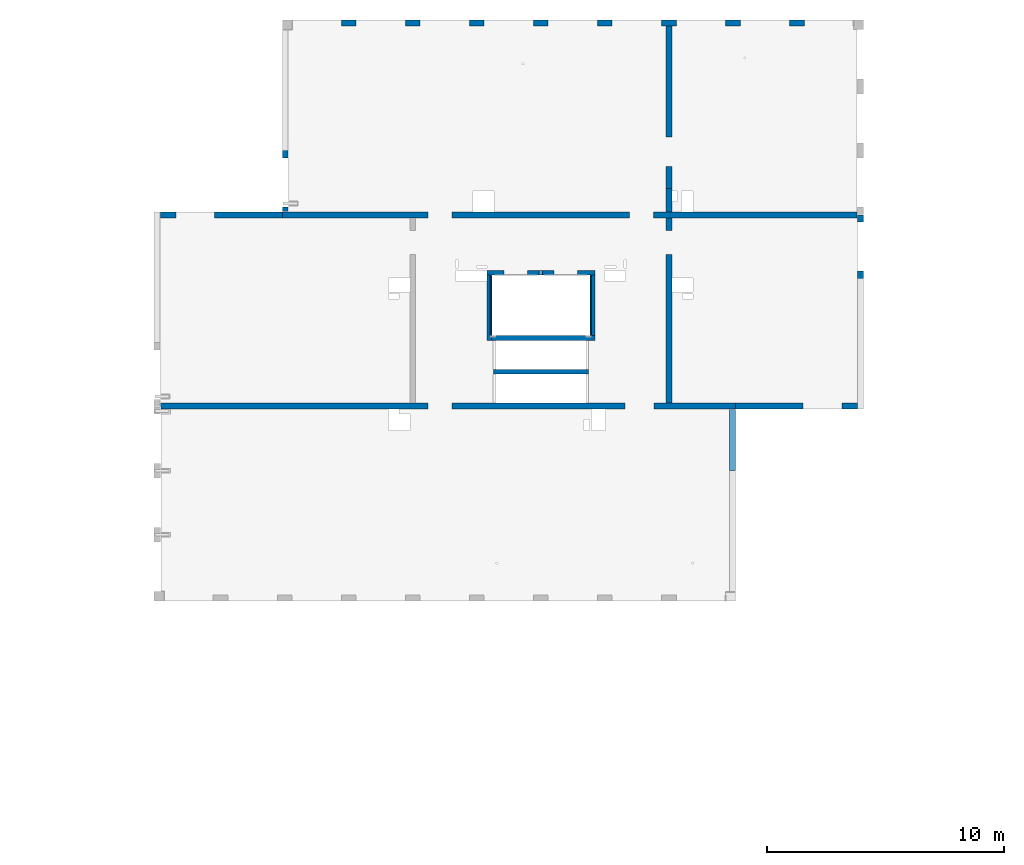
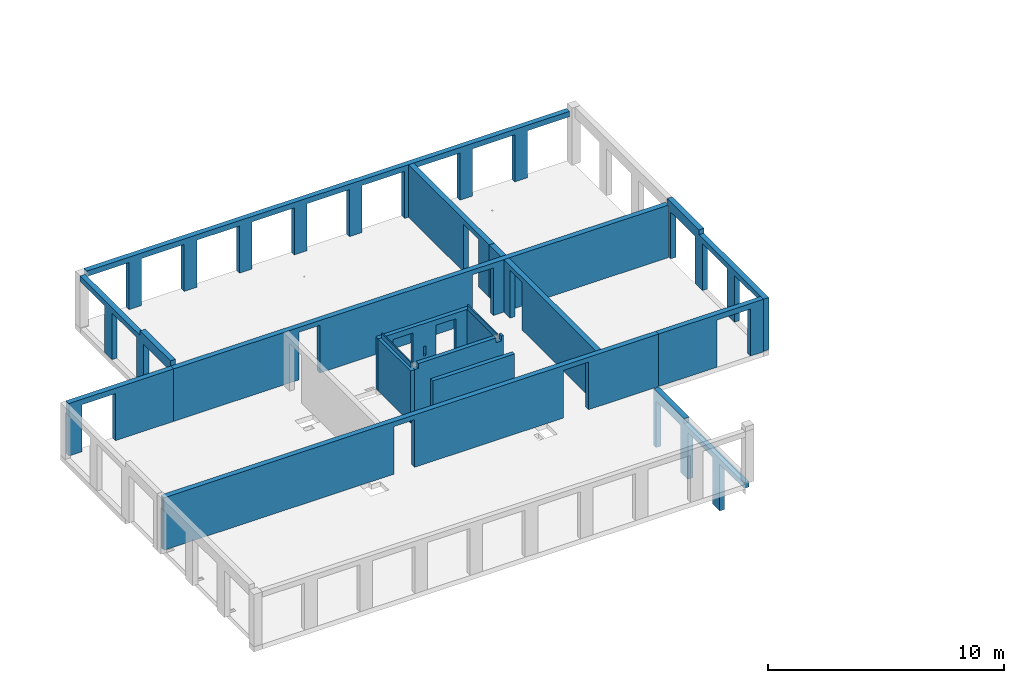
# One storey, part 4 of 12: 18 walls, 35 openings.
"""IFC2X3 building model written with IfcOpenShell, lengths in millimetres."""

from ifc_helpers import new_model, entity, si_unit, converted_unit, derived_unit, direction, frame, frame_2d, origin, origin_2d_with_axis, place, context, subcontext, project, spatial, rectangle, extrude, material, layer, layer_set, layer_usage, type_object, element, save


model = new_model("IFC2X3")

# Units and contexts
model_context = context("Model", 3, precision=0.01, world=origin(), true_north=direction((6.12303176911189e-17, 1.0)))
body_context = subcontext(model_context, "Body", "Model", "MODEL_VIEW")
ifc_project = project(units=[si_unit("LENGTHUNIT", "METRE", prefix="MILLI"), si_unit("AREAUNIT", "SQUARE_METRE"), si_unit("VOLUMEUNIT", "CUBIC_METRE"), converted_unit("PLANEANGLEUNIT", "DEGREE", entity("IfcRatioMeasure", 0.0174532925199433), si_unit("PLANEANGLEUNIT", "RADIAN"), dimensions=[0, 0, 0, 0, 0, 0, 0]), si_unit("MASSUNIT", "GRAM", prefix="KILO"), derived_unit("MASSDENSITYUNIT", [(si_unit("MASSUNIT", "GRAM", prefix="KILO"), 1), (si_unit("LENGTHUNIT", "METRE"), -3)]), si_unit("TIMEUNIT", "SECOND"), si_unit("FREQUENCYUNIT", "HERTZ"), si_unit("THERMODYNAMICTEMPERATUREUNIT", "DEGREE_CELSIUS"), derived_unit("THERMALTRANSMITTANCEUNIT", [(si_unit("MASSUNIT", "GRAM", prefix="KILO"), 1), (si_unit("THERMODYNAMICTEMPERATUREUNIT", "KELVIN"), -1), (si_unit("TIMEUNIT", "SECOND"), -3)]), derived_unit("VOLUMETRICFLOWRATEUNIT", [(si_unit("LENGTHUNIT", "METRE"), 3), (si_unit("TIMEUNIT", "SECOND"), -1)]), si_unit("ELECTRICCURRENTUNIT", "AMPERE"), si_unit("ELECTRICVOLTAGEUNIT", "VOLT"), si_unit("POWERUNIT", "WATT"), si_unit("FORCEUNIT", "NEWTON", prefix="KILO"), si_unit("ILLUMINANCEUNIT", "LUX"), si_unit("LUMINOUSFLUXUNIT", "LUMEN"), si_unit("LUMINOUSINTENSITYUNIT", "CANDELA"), derived_unit("USERDEFINED", [(si_unit("MASSUNIT", "GRAM", prefix="KILO"), -1), (si_unit("LENGTHUNIT", "METRE"), -2), (si_unit("TIMEUNIT", "SECOND"), 3), (si_unit("LUMINOUSFLUXUNIT", "LUMEN"), 1)]), derived_unit("LINEARVELOCITYUNIT", [(si_unit("LENGTHUNIT", "METRE"), 1), (si_unit("TIMEUNIT", "SECOND"), -1)]), si_unit("PRESSUREUNIT", "PASCAL"), derived_unit("USERDEFINED", [(si_unit("LENGTHUNIT", "METRE"), -2), (si_unit("MASSUNIT", "GRAM", prefix="KILO"), 1), (si_unit("TIMEUNIT", "SECOND"), -2)])], contexts=[model_context])

# Site, building, storey
site_placement = place(None, origin())
site = spatial("IfcSite", under=ifc_project, at=site_placement, Name="Default", CompositionType="ELEMENT")
building_placement = place(site_placement, origin())
building = spatial("IfcBuilding", under=site, at=building_placement, Name="niet gebruiken", CompositionType="ELEMENT")
storey_placement = place(building_placement, frame((0.0, 0.0, 21510.0)))
storey = spatial("IfcBuildingStorey", under=building, at=storey_placement, Name="07 zevende verdieping", CompositionType="ELEMENT", Elevation=21510.0)

# Wall, openings
ifc_material_1 = material(Name="NLRS_f2_beton ihwg")
ifc_layer_1 = layer(ifc_material_1, 250.0)
ifc_layer_set_1 = layer_set([ifc_layer_1], Name="Basic Wall:NLRS_22.21_WA_beton ihwg d=250_gen")
ifc_layer_usage_1 = layer_usage(ifc_layer_set_1, "AXIS2", "NEGATIVE", 125.0)
wall_type_1 = type_object("IfcWallType", Name="Basic Wall:NLRS_22.21_WA_beton ihwg d=250_gen", PredefinedType="STANDARD", material=ifc_layer_set_1)
wall_1_placement = place(storey_placement, frame((27170.0, 36981.0, -90.0)))
wall_1 = element("IfcWallStandardCase", 1, at=wall_1_placement, inside=storey, type_object=wall_type_1, material=ifc_layer_usage_1, Name="Basic Wall:NLRS_22.21_WA_beton ihwg d=250_gen", ObjectType="Basic Wall:NLRS_22.21_WA_beton ihwg d=250_gen", context=body_context, shape_type="SweptSolid", body=[
    extrude(rectangle(XDim=24230.0, YDim=250.000000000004, at=frame_2d((12115.0, 0.0), x_axis=(-1.0, 0.0))), origin(), (0.0, 0.0, 1.0), 2719.99999999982),
])
opening_1_placement = place(wall_1_placement, origin())
element("IfcOpeningElement", 2, at=opening_1_placement, cuts=wall_1, Name="Basic Wall:NLRS_22.21_WA_beton ihwg d=250_gen", ObjectType="Opening", context=body_context, shape_type="SweptSolid", body=[
    extrude(rectangle(XDim=2470.0, YDim=1225.0, at=frame_2d((0.0, 0.0), x_axis=(0.0, 1.0))), frame((20192.5000000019, -1399.0, 1235.0), z_axis=(0.0, 1.0, 0.0), x_axis=(-1.0, 0.0, 0.0)), (0.0, 0.0, 1.0), 3048.0),
])
opening_2_placement = place(wall_1_placement, origin())
element("IfcOpeningElement", 3, at=opening_2_placement, cuts=wall_1, Name="Basic Wall:NLRS_22.21_WA_beton ihwg d=250_gen", ObjectType="Opening", context=body_context, shape_type="SweptSolid", body=[
    extrude(rectangle(XDim=2470.0, YDim=1006.0, at=frame_2d((2.1600499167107e-12, 0.0), x_axis=(0.0, 1.0))), frame((11782.0, -1399.0, 1235.0), z_axis=(0.0, 1.0, 0.0), x_axis=(-1.0, 0.0, 0.0)), (0.0, 0.0, 1.0), 3048.0),
])
opening_3_placement = place(wall_1_placement, origin())
element("IfcOpeningElement", 4, at=opening_3_placement, cuts=wall_1, Name="Basic Wall:NLRS_22.21_WA_beton ihwg d=250_gen", ObjectType="Recess", context=body_context, shape_type="SweptSolid", body=[
    extrude(rectangle(XDim=55000.0, YDim=20.0000000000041, at=frame_2d((0.0, -2.16626716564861e-12), x_axis=(1.0, 0.0))), frame((10.0, -140.0, 18590.0), z_axis=(0.0, 1.0, 0.0), x_axis=(0.0, 0.0, -1.0)), (0.0, 0.0, 1.0), 124.999999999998),
])

# Wall, opening
ifc_layer_usage_2 = layer_usage(ifc_layer_set_1, "AXIS2", "NEGATIVE", 125.0)
wall_2_placement = place(storey_placement, frame((27170.0, 45031.0, -90.0)))
wall_2 = element("IfcWallStandardCase", 5, at=wall_2_placement, inside=storey, type_object=wall_type_1, material=ifc_layer_usage_2, Name="Basic Wall:NLRS_22.21_WA_beton ihwg d=250_gen", ObjectType="Basic Wall:NLRS_22.21_WA_beton ihwg d=250_gen", context=body_context, shape_type="SweptSolid", body=[
    extrude(rectangle(XDim=5130.0, YDim=249.999999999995, at=frame_2d((2565.0, 0.0), x_axis=(-1.0, 0.0))), origin(), (0.0, 0.0, 1.0), 2719.99999999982),
])
opening_4_placement = place(wall_2_placement, origin())
element("IfcOpeningElement", 6, at=opening_4_placement, cuts=wall_2, Name="Basic Wall:NLRS_22.21_WA_beton ihwg d=250_gen", ObjectType="Opening", context=body_context, shape_type="SweptSolid", body=[
    extrude(rectangle(XDim=2440.0, YDim=1640.0, at=origin_2d_with_axis()), frame((1460.0, -1649.0, 1220.0), z_axis=(0.0, 1.0, 0.0), x_axis=(0.0, 0.0, 1.0)), (0.0, 0.0, 1.0), 3048.0),
])

ifc_layer_usage_3 = layer_usage(ifc_layer_set_1, "AXIS2", "NEGATIVE", 125.0)
wall_3_placement = place(storey_placement, frame((48600.0, 53006.0, -90.0), z_axis=(0.0, 0.0, 1.0), x_axis=(0.0, -1.0, 0.0)))
wall_3 = element("IfcWallStandardCase", 7, at=wall_3_placement, inside=storey, type_object=wall_type_1, material=ifc_layer_usage_3, Name="Basic Wall:NLRS_22.21_WA_beton ihwg d=250_gen", ObjectType="Basic Wall:NLRS_22.21_WA_beton ihwg d=250_gen", context=body_context, shape_type="SweptSolid", body=[
    extrude(rectangle(XDim=6850.00000000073, YDim=249.999999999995, at=frame_2d((3425.00000000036, -1.10134124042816e-12), x_axis=(-1.0, 0.0))), origin(), (0.0, 0.0, 1.0), 2719.99999999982),
])
opening_5_placement = place(wall_3_placement, origin())
element("IfcOpeningElement", 8, at=opening_5_placement, cuts=wall_3, Name="Basic Wall:NLRS_22.21_WA_beton ihwg d=250_gen", ObjectType="Opening", context=body_context, shape_type="SweptSolid", body=[
    extrude(rectangle(XDim=2470.0, YDim=1240.0, at=frame_2d((0.0, 4.37694325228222e-12), x_axis=(1.0, 0.0))), frame((5300.0, -1649.0, 1235.0), z_axis=(0.0, 1.0, 0.0), x_axis=(0.0, 0.0, 1.0)), (0.0, 0.0, 1.0), 3048.0),
])

ifc_layer_usage_4 = layer_usage(ifc_layer_set_1, "AXIS2", "NEGATIVE", 125.0)
wall_4_placement = place(storey_placement, frame((48600.0, 44906.0, -90.0), z_axis=(0.0, 0.0, 1.0), x_axis=(0.0, -1.0, 0.0)))
wall_4 = element("IfcWallStandardCase", 9, at=wall_4_placement, inside=storey, type_object=wall_type_1, material=ifc_layer_usage_4, Name="Basic Wall:NLRS_22.21_WA_beton ihwg d=250_gen", ObjectType="Basic Wall:NLRS_22.21_WA_beton ihwg d=250_gen", context=body_context, shape_type="SweptSolid", body=[
    extrude(rectangle(XDim=7799.99999999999, YDim=249.999999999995, at=frame_2d((3900.0, 0.0), x_axis=(-1.0, 0.0))), origin(), (0.0, 0.0, 1.0), 2719.99999999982),
])
opening_6_placement = place(wall_4_placement, origin())
element("IfcOpeningElement", 10, at=opening_6_placement, cuts=wall_4, Name="Basic Wall:NLRS_22.21_WA_beton ihwg d=250_gen", ObjectType="Opening", context=body_context, shape_type="SweptSolid", body=[
    extrude(rectangle(XDim=2470.0, YDim=1006.0, at=origin_2d_with_axis()), frame((1027.0, -1649.0, 1235.0), z_axis=(0.0, 1.0, 0.0), x_axis=(0.0, 0.0, 1.0)), (0.0, 0.0, 1.0), 3048.0),
])

# Wall, openings
ifc_layer_usage_5 = layer_usage(ifc_layer_set_1, "AXIS2", "NEGATIVE", 125.0)
wall_5_placement = place(storey_placement, frame((32300.0, 45031.0, -90.0)))
wall_5 = element("IfcWallStandardCase", 11, at=wall_5_placement, inside=storey, type_object=wall_type_1, material=ifc_layer_usage_5, Name="Basic Wall:NLRS_22.21_WA_beton ihwg d=250_gen", ObjectType="Basic Wall:NLRS_22.21_WA_beton ihwg d=250_gen", context=body_context, shape_type="SweptSolid", body=[
    extrude(rectangle(XDim=24230.0000000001, YDim=249.999999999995, at=frame_2d((12115.0000000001, 0.0), x_axis=(-1.0, 0.0))), origin(), (0.0, 0.0, 1.0), 2719.99999999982),
])
opening_7_placement = place(wall_5_placement, origin())
element("IfcOpeningElement", 12, at=opening_7_placement, cuts=wall_5, Name="Basic Wall:NLRS_22.21_WA_beton ihwg d=250_gen", ObjectType="Opening", context=body_context, shape_type="SweptSolid", body=[
    extrude(rectangle(XDim=2470.0, YDim=1006.0, at=origin_2d_with_axis()), frame((15148.0, -1649.0, 1235.0), z_axis=(0.0, 1.0, 0.0), x_axis=(0.0, 0.0, 1.0)), (0.0, 0.0, 1.0), 3048.0),
])
opening_8_placement = place(wall_5_placement, origin())
element("IfcOpeningElement", 13, at=opening_8_placement, cuts=wall_5, Name="Basic Wall:NLRS_22.21_WA_beton ihwg d=250_gen", ObjectType="Opening", context=body_context, shape_type="SweptSolid", body=[
    extrude(rectangle(XDim=2470.0, YDim=1006.0, at=frame_2d((0.0, -2.1600499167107e-12), x_axis=(1.0, 0.0))), frame((6652.0, -1649.0, 1235.0), z_axis=(0.0, 1.0, 0.0), x_axis=(0.0, 0.0, 1.0)), (0.0, 0.0, 1.0), 3048.0),
])

# Wall, opening
ifc_layer_usage_6 = layer_usage(ifc_layer_set_1, "AXIS2", "NEGATIVE", 125.0)
wall_6_placement = place(storey_placement, frame((51400.0, 36981.0, -90.0)))
wall_6 = element("IfcWallStandardCase", 14, at=wall_6_placement, inside=storey, type_object=wall_type_1, material=ifc_layer_usage_6, Name="Basic Wall:NLRS_22.21_WA_beton ihwg d=250_gen", ObjectType="Basic Wall:NLRS_22.21_WA_beton ihwg d=250_gen", context=body_context, shape_type="SweptSolid", body=[
    extrude(rectangle(XDim=5150.0, YDim=250.000000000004, at=frame_2d((2575.0, 0.0), x_axis=(-1.0, 0.0))), origin(), (0.0, 0.0, 1.0), 2719.99999999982),
])
opening_9_placement = place(wall_6_placement, origin())
element("IfcOpeningElement", 15, at=opening_9_placement, cuts=wall_6, Name="Basic Wall:NLRS_22.21_WA_beton ihwg d=250_gen", ObjectType="Opening", context=body_context, shape_type="SweptSolid", body=[
    extrude(rectangle(XDim=2440.0, YDim=1640.0, at=frame_2d((4.37694325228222e-12, 0.0), x_axis=(0.0, 1.0))), frame((3670.0, -1399.0, 1220.0), z_axis=(0.0, 1.0, 0.0), x_axis=(-1.0, 0.0, 0.0)), (0.0, 0.0, 1.0), 3048.0),
])

# Wall
ifc_layer_usage_7 = layer_usage(ifc_layer_set_1, "AXIS2", "NEGATIVE", 125.0)
wall_7_placement = place(storey_placement, frame((48600.0, 46156.0, -90.0), z_axis=(0.0, 0.0, 1.0), x_axis=(0.0, -1.0, 0.0)))
element("IfcWallStandardCase", 16, at=wall_7_placement, inside=storey, type_object=wall_type_1, material=ifc_layer_usage_7, Name="Basic Wall:NLRS_22.21_WA_beton ihwg d=250_gen", ObjectType="Basic Wall:NLRS_22.21_WA_beton ihwg d=250_gen", context=body_context, shape_type="SweptSolid", body=[
    extrude(rectangle(XDim=999.999999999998, YDim=249.999999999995, at=frame_2d((499.999999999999, 1.10134124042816e-12), x_axis=(-1.0, 0.0))), origin(), (0.0, 0.0, 1.0), 2719.99999999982),
])

# Wall, openings
ifc_material_2 = material(Name="NLRS_f2_beton prefab")
ifc_layer_2 = layer(ifc_material_2, 250.0)
ifc_layer_set_2 = layer_set([ifc_layer_2], Name="Basic Wall:NLRS_21.21_WA_beton prefab d=250_gen")
ifc_layer_usage_8 = layer_usage(ifc_layer_set_2, "AXIS2", "NEGATIVE", 125.0)
wall_type_2 = type_object("IfcWallType", Name="Basic Wall:NLRS_21.21_WA_beton prefab d=250_gen", PredefinedType="STANDARD", material=ifc_layer_set_2)
wall_8_placement = place(storey_placement, frame((51275.0, 29166.0, -3040.0), z_axis=(0.0, 0.0, 1.0), x_axis=(0.0, 1.0, 0.0)))
wall_8 = element("IfcWallStandardCase", 17, at=wall_8_placement, inside=storey, type_object=wall_type_2, material=ifc_layer_usage_8, Name="Basic Wall:NLRS_21.21_WA_beton prefab d=250_gen", ObjectType="Basic Wall:NLRS_21.21_WA_beton prefab d=250_gen", context=body_context, shape_type="SweptSolid", body=[
    extrude(rectangle(XDim=7669.99999999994, YDim=249.999999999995, at=frame_2d((3834.99999999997, 0.0), x_axis=(-1.0, 0.0))), origin(), (0.0, 0.0, 1.0), 2949.99999999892),
])
opening_10_placement = place(wall_8_placement, origin())
element("IfcOpeningElement", 18, at=opening_10_placement, cuts=wall_8, Name="Basic Wall:NLRS_21.21_WA_beton prefab d=250_gen", ObjectType="Opening", context=body_context, shape_type="SweptSolid", body=[
    extrude(rectangle(XDim=2420.0, YDim=2080.0, at=frame_2d((-2.1600499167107e-12, 2.1600499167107e-12), x_axis=(0.0, 1.0))), frame((1040.0, -1399.0, 1210.0), z_axis=(0.0, 1.0, 0.0), x_axis=(-1.0, 0.0, 0.0)), (0.0, 0.0, 1.0), 3048.0),
])
opening_11_placement = place(wall_8_placement, origin())
element("IfcOpeningElement", 19, at=opening_11_placement, cuts=wall_8, Name="Basic Wall:NLRS_21.21_WA_beton prefab d=250_gen", ObjectType="Opening", context=body_context, shape_type="SweptSolid", body=[
    extrude(rectangle(XDim=2420.0, YDim=2080.0, at=frame_2d((2.1600499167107e-12, 2.1600499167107e-12), x_axis=(0.0, 1.0))), frame((3740.0, -1399.0, 1210.0), z_axis=(0.0, 1.0, 0.0), x_axis=(-1.0, 0.0, 0.0)), (0.0, 0.0, 1.0), 3048.0),
])
opening_12_placement = place(wall_8_placement, origin())
element("IfcOpeningElement", 20, at=opening_12_placement, cuts=wall_8, Name="Basic Wall:NLRS_21.21_WA_beton prefab d=250_gen", ObjectType="Opening", context=body_context, shape_type="SweptSolid", body=[
    extrude(rectangle(XDim=2420.0, YDim=2080.0, at=frame_2d((2.1600499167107e-12, 2.1600499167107e-12), x_axis=(0.0, 1.0))), frame((6440.0, -1399.0, 1210.0), z_axis=(0.0, 1.0, 0.0), x_axis=(-1.0, 0.0, 0.0)), (0.0, 0.0, 1.0), 3048.0),
])
opening_13_placement = place(wall_8_placement, origin())
element("IfcOpeningElement", 21, at=opening_13_placement, cuts=wall_8, Name="Basic Wall:NLRS_21.21_WA_beton prefab d=250_gen", ObjectType="Opening", context=body_context, shape_type="SweptSolid", body=[
    extrude(rectangle(XDim=249.999999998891, YDim=5090.00000000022, at=frame_2d((0.0, 2.16715534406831e-12), x_axis=(0.0, 1.0))), frame((2545.0, 125.0, 2825.0), z_axis=(0.0, -1.0, 0.0), x_axis=(-1.0, 0.0, 0.0)), (0.0, 0.0, 1.0), 250.0),
])

ifc_layer_usage_9 = layer_usage(ifc_layer_set_2, "AXIS2", "NEGATIVE", 125.0)
wall_9_placement = place(storey_placement, frame((32425.0, 52846.0, -70.0), z_axis=(0.0, 0.0, 1.0), x_axis=(0.0, -1.0, 0.0)))
wall_9 = element("IfcWallStandardCase", 22, at=wall_9_placement, inside=storey, type_object=wall_type_2, material=ifc_layer_usage_9, Name="Basic Wall:NLRS_21.21_WA_beton prefab d=250_gen", ObjectType="Basic Wall:NLRS_21.21_WA_beton prefab d=250_gen", context=body_context, shape_type="SweptSolid", body=[
    extrude(rectangle(XDim=7670.00000000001, YDim=250.000000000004, at=frame_2d((3835.0, 0.0), x_axis=(-1.0, 0.0))), origin(), (0.0, 0.0, 1.0), 2949.99999999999),
])
opening_14_placement = place(wall_9_placement, origin())
element("IfcOpeningElement", 23, at=opening_14_placement, cuts=wall_9, Name="Basic Wall:NLRS_21.21_WA_beton prefab d=250_gen", ObjectType="Opening", context=body_context, shape_type="SweptSolid", body=[
    extrude(rectangle(XDim=2420.0, YDim=2080.0, at=frame_2d((8.64019966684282e-12, -2.1600499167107e-12), x_axis=(0.0, 1.0))), frame((1040.0, -1399.0, 1210.0), z_axis=(0.0, 1.0, 0.0), x_axis=(-1.0, 0.0, 0.0)), (0.0, 0.0, 1.0), 3048.0),
])
opening_15_placement = place(wall_9_placement, origin())
element("IfcOpeningElement", 24, at=opening_15_placement, cuts=wall_9, Name="Basic Wall:NLRS_21.21_WA_beton prefab d=250_gen", ObjectType="Opening", context=body_context, shape_type="SweptSolid", body=[
    extrude(rectangle(XDim=2420.0, YDim=2080.0, at=frame_2d((0.0, 2.1600499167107e-12), x_axis=(0.0, 1.0))), frame((3740.0, -1399.0, 1210.0), z_axis=(0.0, 1.0, 0.0), x_axis=(-1.0, 0.0, 0.0)), (0.0, 0.0, 1.0), 3048.0),
])
opening_16_placement = place(wall_9_placement, origin())
element("IfcOpeningElement", 25, at=opening_16_placement, cuts=wall_9, Name="Basic Wall:NLRS_21.21_WA_beton prefab d=250_gen", ObjectType="Opening", context=body_context, shape_type="SweptSolid", body=[
    extrude(rectangle(XDim=2420.0, YDim=2080.0, at=frame_2d((0.0, 2.1600499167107e-12), x_axis=(0.0, 1.0))), frame((6440.0, -1399.0, 1210.0), z_axis=(0.0, 1.0, 0.0), x_axis=(-1.0, 0.0, 0.0)), (0.0, 0.0, 1.0), 3048.0),
])
opening_17_placement = place(wall_9_placement, origin())
element("IfcOpeningElement", 26, at=opening_17_placement, cuts=wall_9, Name="Basic Wall:NLRS_21.21_WA_beton prefab d=250_gen", ObjectType="Opening", context=body_context, shape_type="SweptSolid", body=[
    extrude(rectangle(XDim=250.000000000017, YDim=5089.99999999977, at=frame_2d((4.32009983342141e-12, -2.16715534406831e-12), x_axis=(0.0, 1.0))), frame((2545.0, 125.0, 2825.0), z_axis=(0.0, -1.0, 0.0), x_axis=(-1.0, 0.0, 0.0)), (0.0, 0.0, 1.0), 250.0),
])

ifc_layer_usage_10 = layer_usage(ifc_layer_set_2, "AXIS2", "NEGATIVE", 125.0)
wall_10_placement = place(storey_placement, frame((56675.0, 45046.0, -70.0), z_axis=(0.0, 0.0, 1.0), x_axis=(0.0, -1.0, 0.0)))
wall_10 = element("IfcWallStandardCase", 27, at=wall_10_placement, inside=storey, type_object=wall_type_2, material=ifc_layer_usage_10, Name="Basic Wall:NLRS_21.21_WA_beton prefab d=250_gen", ObjectType="Basic Wall:NLRS_21.21_WA_beton prefab d=250_gen", context=body_context, shape_type="SweptSolid", body=[
    extrude(rectangle(XDim=8189.99999999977, YDim=249.999999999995, at=frame_2d((4094.99999999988, 0.0), x_axis=(-1.0, 0.0))), origin(), (0.0, 0.0, 1.0), 2949.99999999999),
])
opening_18_placement = place(wall_10_placement, origin())
element("IfcOpeningElement", 28, at=opening_18_placement, cuts=wall_10, Name="Basic Wall:NLRS_21.21_WA_beton prefab d=250_gen", ObjectType="Opening", context=body_context, shape_type="SweptSolid", body=[
    extrude(rectangle(XDim=2420.0, YDim=2080.0, at=frame_2d((0.0, -2.1600499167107e-12), x_axis=(0.0, 1.0))), frame((1340.0, -1399.0, 1210.0), z_axis=(0.0, 1.0, 0.0), x_axis=(-1.0, 0.0, 0.0)), (0.0, 0.0, 1.0), 3048.0),
])
opening_19_placement = place(wall_10_placement, origin())
element("IfcOpeningElement", 29, at=opening_19_placement, cuts=wall_10, Name="Basic Wall:NLRS_21.21_WA_beton prefab d=250_gen", ObjectType="Opening", context=body_context, shape_type="SweptSolid", body=[
    extrude(rectangle(XDim=2420.0, YDim=2080.0, at=frame_2d((0.0, -2.1600499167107e-12), x_axis=(0.0, 1.0))), frame((4040.0, -1399.0, 1210.0), z_axis=(0.0, 1.0, 0.0), x_axis=(-1.0, 0.0, 0.0)), (0.0, 0.0, 1.0), 3048.0),
])
opening_20_placement = place(wall_10_placement, origin())
element("IfcOpeningElement", 30, at=opening_20_placement, cuts=wall_10, Name="Basic Wall:NLRS_21.21_WA_beton prefab d=250_gen", ObjectType="Opening", context=body_context, shape_type="SweptSolid", body=[
    extrude(rectangle(XDim=2420.0, YDim=2080.0, at=frame_2d((0.0, -2.1600499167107e-12), x_axis=(0.0, 1.0))), frame((6740.0, -1399.0, 1210.0), z_axis=(0.0, 1.0, 0.0), x_axis=(-1.0, 0.0, 0.0)), (0.0, 0.0, 1.0), 3048.0),
])
opening_21_placement = place(wall_10_placement, origin())
element("IfcOpeningElement", 31, at=opening_21_placement, cuts=wall_10, Name="Basic Wall:NLRS_21.21_WA_beton prefab d=250_gen", ObjectType="Opening", context=body_context, shape_type="SweptSolid", body=[
    extrude(rectangle(XDim=249.999999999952, YDim=5500.0000000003, at=frame_2d((0.0, -4.32009983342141e-12), x_axis=(1.0, 0.0))), frame((5440.0, 125.0, 2825.0), z_axis=(0.0, -1.0, 0.0), x_axis=(0.0, 0.0, 1.0)), (0.0, 0.0, 1.0), 250.0),
])

# Wall
ifc_layer_3 = layer(ifc_material_2, 200.0)
ifc_layer_set_3 = layer_set([ifc_layer_3], Name="Basic Wall:NLRS_21.21_WA_beton prefab d=200_gen")
ifc_layer_usage_11 = layer_usage(ifc_layer_set_3, "AXIS2", "NEGATIVE", 100.0)
wall_type_3 = type_object("IfcWallType", Name="Basic Wall:NLRS_21.21_WA_beton prefab d=200_gen", PredefinedType="STANDARD", material=ifc_layer_set_3)
wall_11_placement = place(storey_placement, frame((41200.0, 38426.0, -70.0)))
element("IfcWallStandardCase", 32, at=wall_11_placement, inside=storey, type_object=wall_type_3, material=ifc_layer_usage_11, Name="Basic Wall:NLRS_21.21_WA_beton prefab d=200_gen", ObjectType="Basic Wall:NLRS_21.21_WA_beton prefab d=200_gen", context=body_context, shape_type="SweptSolid", body=[
    extrude(rectangle(XDim=3999.99999999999, YDim=199.999999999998, at=frame_2d((2000.0, 0.0), x_axis=(-1.0, 0.0))), origin(), (0.0, 0.0, 1.0), 2950.00000000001),
])

# Wall, openings
ifc_layer_4 = layer(ifc_material_2, 200.0)
ifc_layer_set_4 = layer_set([ifc_layer_4], Name="Basic Wall:NLRS_22.21_WA_beton prefab d=200_gen")
ifc_layer_usage_12 = layer_usage(ifc_layer_set_4, "AXIS2", "NEGATIVE", 100.0)
wall_type_4 = type_object("IfcWallType", Name="Basic Wall:NLRS_22.21_WA_beton prefab d=200_gen", PredefinedType="STANDARD", material=ifc_layer_set_4)
wall_12_placement = place(storey_placement, frame((40925.0, 42596.0, -70.0)))
wall_12 = element("IfcWallStandardCase", 33, at=wall_12_placement, inside=storey, type_object=wall_type_4, material=ifc_layer_usage_12, Name="Basic Wall:NLRS_22.21_WA_beton prefab d=200_gen", ObjectType="Basic Wall:NLRS_22.21_WA_beton prefab d=200_gen", context=body_context, shape_type="SweptSolid", body=[
    extrude(rectangle(XDim=4549.99999999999, YDim=200.000000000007, at=frame_2d((2274.99999999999, 7.8159700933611e-13), x_axis=(-1.0, 0.0))), origin(), (0.0, 0.0, 1.0), 2700.00000000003),
])
opening_22_placement = place(wall_12_placement, origin())
element("IfcOpeningElement", 34, at=opening_22_placement, cuts=wall_12, Name="Basic Wall:NLRS_22.21_WA_beton prefab d=200_gen", ObjectType="Opening", context=body_context, shape_type="SweptSolid", body=[
    extrude(rectangle(XDim=2430.0, YDim=980.000000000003, at=origin_2d_with_axis()), frame((1219.99984910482, -1624.0, 1195.0), z_axis=(0.0, 1.0, 0.0), x_axis=(0.0, 0.0, 1.0)), (0.0, 0.0, 1.0), 3048.0),
])
opening_23_placement = place(wall_12_placement, origin())
element("IfcOpeningElement", 35, at=opening_23_placement, cuts=wall_12, Name="Basic Wall:NLRS_22.21_WA_beton prefab d=200_gen", ObjectType="Opening", context=body_context, shape_type="SweptSolid", body=[
    extrude(rectangle(XDim=2430.0, YDim=980.000000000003, at=origin_2d_with_axis()), frame((3329.99984910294, -1624.0, 1195.0), z_axis=(0.0, 1.0, 0.0), x_axis=(0.0, 0.0, 1.0)), (0.0, 0.0, 1.0), 3048.0),
])
opening_24_placement = place(wall_12_placement, origin())
element("IfcOpeningElement", 36, at=opening_24_placement, cuts=wall_12, Name="Basic Wall:NLRS_22.21_WA_beton prefab d=200_gen", ObjectType="Opening", context=body_context, shape_type="SweptSolid", body=[
    extrude(rectangle(XDim=505.000000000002, YDim=135.000000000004, at=frame_2d((2.1600499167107e-12, 0.0), x_axis=(1.0, 0.0))), frame((2275.0, -1624.0, 1272.5), z_axis=(0.0, 1.0, 0.0), x_axis=(0.0, 0.0, 1.0)), (0.0, 0.0, 1.0), 3048.0),
])

# Wall
ifc_layer_usage_13 = layer_usage(ifc_layer_set_4, "AXIS2", "NEGATIVE", 100.0)
wall_13_placement = place(storey_placement, frame((41025.0, 42496.0, -70.0), z_axis=(0.0, 0.0, 1.0), x_axis=(0.0, -1.0, 0.0)))
element("IfcWallStandardCase", 37, at=wall_13_placement, inside=storey, type_object=wall_type_4, material=ifc_layer_usage_13, Name="Basic Wall:NLRS_22.21_WA_beton prefab d=200_gen", ObjectType="Basic Wall:NLRS_22.21_WA_beton prefab d=200_gen", context=body_context, shape_type="SweptSolid", body=[
    extrude(rectangle(XDim=2749.99999999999, YDim=200.000000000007, at=frame_2d((1375.0, 0.0), x_axis=(-1.0, 0.0))), origin(), (0.0, 0.0, 1.0), 2700.00000000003),
])

# Wall, openings
ifc_layer_usage_14 = layer_usage(ifc_layer_set_4, "AXIS2", "NEGATIVE", 100.0)
wall_14_placement = place(storey_placement, frame((45475.0, 39846.0, -70.0), z_axis=(0.0, 0.0, 1.0), x_axis=(-1.0, 0.0, 0.0)))
wall_14 = element("IfcWallStandardCase", 38, at=wall_14_placement, inside=storey, type_object=wall_type_4, material=ifc_layer_usage_14, Name="Basic Wall:NLRS_22.21_WA_beton prefab d=200_gen", ObjectType="Basic Wall:NLRS_22.21_WA_beton prefab d=200_gen", context=body_context, shape_type="SweptSolid", body=[
    extrude(rectangle(XDim=4349.99999999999, YDim=200.000000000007, at=frame_2d((2174.99999999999, 0.0), x_axis=(-1.0, 0.0))), origin(), (0.0, 0.0, 1.0), 2950.0),
])
opening_25_placement = place(wall_14_placement, origin())
element("IfcOpeningElement", 39, at=opening_25_placement, cuts=wall_14, Name="Basic Wall:NLRS_22.21_WA_beton prefab d=200_gen", ObjectType="Opening", context=body_context, shape_type="SweptSolid", body=[
    extrude(rectangle(XDim=249.999999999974, YDim=274.9999671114, at=frame_2d((2.16715534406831e-12, -4.33431068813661e-12), x_axis=(1.0, 0.0))), frame((4312.50001644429, 100.0, 2825.0), z_axis=(0.0, -1.0, 0.0), x_axis=(0.0, 0.0, 1.0)), (0.0, 0.0, 1.0), 200.0),
])
opening_26_placement = place(wall_14_placement, origin())
element("IfcOpeningElement", 40, at=opening_26_placement, cuts=wall_14, Name="Basic Wall:NLRS_22.21_WA_beton prefab d=200_gen", ObjectType="Opening", context=body_context, shape_type="SweptSolid", body=[
    extrude(rectangle(XDim=249.999999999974, YDim=275.000032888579, at=frame_2d((4.32009983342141e-12, -2.16715534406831e-12), x_axis=(0.0, 1.0))), frame((237.500016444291, 100.0, 2825.0), z_axis=(0.0, -1.0, 0.0), x_axis=(-1.0, 0.0, 0.0)), (0.0, 0.0, 1.0), 200.0),
])

# Wall
ifc_layer_usage_15 = layer_usage(ifc_layer_set_4, "AXIS2", "NEGATIVE", 100.0)
wall_15_placement = place(storey_placement, frame((45375.0, 39946.0, -70.0), z_axis=(0.0, 0.0, 1.0), x_axis=(0.0, 1.0, 0.0)))
element("IfcWallStandardCase", 41, at=wall_15_placement, inside=storey, type_object=wall_type_4, material=ifc_layer_usage_15, Name="Basic Wall:NLRS_22.21_WA_beton prefab d=200_gen", ObjectType="Basic Wall:NLRS_22.21_WA_beton prefab d=200_gen", context=body_context, shape_type="SweptSolid", body=[
    extrude(rectangle(XDim=2549.99999999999, YDim=200.000000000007, at=frame_2d((1275.0, 0.0), x_axis=(-1.0, 0.0))), origin(), (0.0, 0.0, 1.0), 2700.00000000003),
])

# Wall, openings
ifc_layer_5 = layer(ifc_material_1, 250.0)
ifc_layer_set_5 = layer_set([ifc_layer_5], Name="Basic Wall:NLRS_21.21_WA_beton ihwg d=250_gen")
ifc_layer_usage_16 = layer_usage(ifc_layer_set_5, "AXIS2", "NEGATIVE", 125.0)
wall_type_5 = type_object("IfcWallType", Name="Basic Wall:NLRS_21.21_WA_beton ihwg d=250_gen", PredefinedType="STANDARD", material=ifc_layer_set_5)
wall_16_placement = place(storey_placement, frame((56370.0, 53131.0, -90.0), z_axis=(0.0, 0.0, 1.0), x_axis=(-1.0, 0.0, 0.0)))
wall_16 = element("IfcWallStandardCase", 42, at=wall_16_placement, inside=storey, type_object=wall_type_5, material=ifc_layer_usage_16, Name="Basic Wall:NLRS_21.21_WA_beton ihwg d=250_gen", ObjectType="Basic Wall:NLRS_21.21_WA_beton ihwg d=250_gen", context=body_context, shape_type="SweptSolid", body=[
    extrude(rectangle(XDim=23640.0000000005, YDim=249.999999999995, at=frame_2d((11820.0000000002, 5.82645043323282e-13), x_axis=(-1.0, 0.0))), origin(), (0.0, 0.0, 1.0), 2720.0),
])
opening_27_placement = place(wall_16_placement, origin())
element("IfcOpeningElement", 43, at=opening_27_placement, cuts=wall_16, Name="Basic Wall:NLRS_21.21_WA_beton ihwg d=250_gen", ObjectType="Opening", context=body_context, shape_type="SweptSolid", body=[
    extrude(rectangle(XDim=2440.0, YDim=2080.0, at=frame_2d((-2.1600499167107e-12, 0.0), x_axis=(0.0, 1.0))), frame((22620.0, -1399.0, 1220.0), z_axis=(0.0, 1.0, 0.0), x_axis=(-1.0, 0.0, 0.0)), (0.0, 0.0, 1.0), 3048.0),
])
opening_28_placement = place(wall_16_placement, origin())
element("IfcOpeningElement", 44, at=opening_28_placement, cuts=wall_16, Name="Basic Wall:NLRS_21.21_WA_beton ihwg d=250_gen", ObjectType="Opening", context=body_context, shape_type="SweptSolid", body=[
    extrude(rectangle(XDim=2440.0, YDim=2080.0, at=frame_2d((2.1600499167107e-12, -2.1600499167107e-12), x_axis=(0.0, 1.0))), frame((19920.0, -1399.0, 1220.0), z_axis=(0.0, 1.0, 0.0), x_axis=(-1.0, 0.0, 0.0)), (0.0, 0.0, 1.0), 3048.0),
])
opening_29_placement = place(wall_16_placement, origin())
element("IfcOpeningElement", 45, at=opening_29_placement, cuts=wall_16, Name="Basic Wall:NLRS_21.21_WA_beton ihwg d=250_gen", ObjectType="Opening", context=body_context, shape_type="SweptSolid", body=[
    extrude(rectangle(XDim=2440.0, YDim=2079.99999999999, at=frame_2d((2.1600499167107e-12, 0.0), x_axis=(0.0, 1.0))), frame((17220.0, -1399.0, 1220.0), z_axis=(0.0, 1.0, 0.0), x_axis=(-1.0, 0.0, 0.0)), (0.0, 0.0, 1.0), 3048.0),
])
opening_30_placement = place(wall_16_placement, origin())
element("IfcOpeningElement", 46, at=opening_30_placement, cuts=wall_16, Name="Basic Wall:NLRS_21.21_WA_beton ihwg d=250_gen", ObjectType="Opening", context=body_context, shape_type="SweptSolid", body=[
    extrude(rectangle(XDim=2440.0, YDim=2080.0, at=frame_2d((0.0, -2.1600499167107e-12), x_axis=(0.0, 1.0))), frame((14520.0, -1399.0, 1220.0), z_axis=(0.0, 1.0, 0.0), x_axis=(-1.0, 0.0, 0.0)), (0.0, 0.0, 1.0), 3048.0),
])
opening_31_placement = place(wall_16_placement, origin())
element("IfcOpeningElement", 47, at=opening_31_placement, cuts=wall_16, Name="Basic Wall:NLRS_21.21_WA_beton ihwg d=250_gen", ObjectType="Opening", context=body_context, shape_type="SweptSolid", body=[
    extrude(rectangle(XDim=2440.0, YDim=2080.0, at=frame_2d((0.0, 0.0), x_axis=(0.0, 1.0))), frame((11820.0, -1399.0, 1220.0), z_axis=(0.0, 1.0, 0.0), x_axis=(-1.0, 0.0, 0.0)), (0.0, 0.0, 1.0), 3048.0),
])
opening_32_placement = place(wall_16_placement, origin())
element("IfcOpeningElement", 48, at=opening_32_placement, cuts=wall_16, Name="Basic Wall:NLRS_21.21_WA_beton ihwg d=250_gen", ObjectType="Opening", context=body_context, shape_type="SweptSolid", body=[
    extrude(rectangle(XDim=2440.0, YDim=2080.0, at=frame_2d((0.0, -2.1600499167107e-12), x_axis=(0.0, 1.0))), frame((9120.0, -1399.0, 1220.0), z_axis=(0.0, 1.0, 0.0), x_axis=(-1.0, 0.0, 0.0)), (0.0, 0.0, 1.0), 3048.0),
])
opening_33_placement = place(wall_16_placement, origin())
element("IfcOpeningElement", 49, at=opening_33_placement, cuts=wall_16, Name="Basic Wall:NLRS_21.21_WA_beton ihwg d=250_gen", ObjectType="Opening", context=body_context, shape_type="SweptSolid", body=[
    extrude(rectangle(XDim=2440.0, YDim=2080.0, at=frame_2d((0.0, 0.0), x_axis=(0.0, 1.0))), frame((6420.0, -1399.0, 1220.0), z_axis=(0.0, 1.0, 0.0), x_axis=(-1.0, 0.0, 0.0)), (0.0, 0.0, 1.0), 3048.0),
])
opening_34_placement = place(wall_16_placement, origin())
element("IfcOpeningElement", 50, at=opening_34_placement, cuts=wall_16, Name="Basic Wall:NLRS_21.21_WA_beton ihwg d=250_gen", ObjectType="Opening", context=body_context, shape_type="SweptSolid", body=[
    extrude(rectangle(XDim=2440.0, YDim=2080.0, at=frame_2d((0.0, -2.1600499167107e-12), x_axis=(0.0, 1.0))), frame((3720.0, -1399.0, 1220.0), z_axis=(0.0, 1.0, 0.0), x_axis=(-1.0, 0.0, 0.0)), (0.0, 0.0, 1.0), 3048.0),
])
opening_35_placement = place(wall_16_placement, origin())
element("IfcOpeningElement", 51, at=opening_35_placement, cuts=wall_16, Name="Basic Wall:NLRS_21.21_WA_beton ihwg d=250_gen", ObjectType="Opening", context=body_context, shape_type="SweptSolid", body=[
    extrude(rectangle(XDim=2440.0, YDim=2080.0, at=frame_2d((8.64019966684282e-12, 0.0), x_axis=(0.0, 1.0))), frame((1020.0, -1399.0, 1220.0), z_axis=(0.0, 1.0, 0.0), x_axis=(-1.0, 0.0, 0.0)), (0.0, 0.0, 1.0), 3048.0),
])

# Walls
ifc_layer_6 = layer(ifc_material_2, 60.0)
ifc_layer_set_6 = layer_set([ifc_layer_6], Name="Basic Wall:NLRS_22.21_WA_beton prefab d=60_gen")
ifc_layer_usage_17 = layer_usage(ifc_layer_set_6, "AXIS2", "NEGATIVE", 30.0)
wall_type_6 = type_object("IfcWallType", Name="Basic Wall:NLRS_22.21_WA_beton prefab d=60_gen", PredefinedType="STANDARD", material=ifc_layer_set_6)
wall_17_placement = place(storey_placement, frame((41095.0, 42476.0, 2630.0), z_axis=(0.0, 0.0, 1.0), x_axis=(0.0, -1.0, 0.0)))
element("IfcWallStandardCase", 52, at=wall_17_placement, inside=storey, type_object=wall_type_6, material=ifc_layer_usage_17, Name="Basic Wall:NLRS_22.21_WA_beton prefab d=60_gen", ObjectType="Basic Wall:NLRS_22.21_WA_beton prefab d=60_gen", context=body_context, shape_type="SweptSolid", body=[
    extrude(rectangle(XDim=2509.99999999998, YDim=60.0000000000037, at=frame_2d((1254.99999999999, 0.0), x_axis=(-1.0, 0.0))), origin(), (0.0, 0.0, 1.0), 250.000000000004),
])
ifc_layer_usage_18 = layer_usage(ifc_layer_set_6, "AXIS2", "POSITIVE", -30.0)
wall_18_placement = place(storey_placement, frame((45305.0, 42476.0, 2630.0), z_axis=(0.0, 0.0, 1.0), x_axis=(0.0, -1.0, 0.0)))
element("IfcWallStandardCase", 53, at=wall_18_placement, inside=storey, type_object=wall_type_6, material=ifc_layer_usage_18, Name="Basic Wall:NLRS_22.21_WA_beton prefab d=60_gen", ObjectType="Basic Wall:NLRS_22.21_WA_beton prefab d=60_gen", context=body_context, shape_type="SweptSolid", body=[
    extrude(rectangle(XDim=2509.99999999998, YDim=60.0000000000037, at=frame_2d((1254.99999999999, 0.0), x_axis=(-1.0, 0.0))), origin(), (0.0, 0.0, 1.0), 250.000000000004),
])

save(model, "model.ifc")
